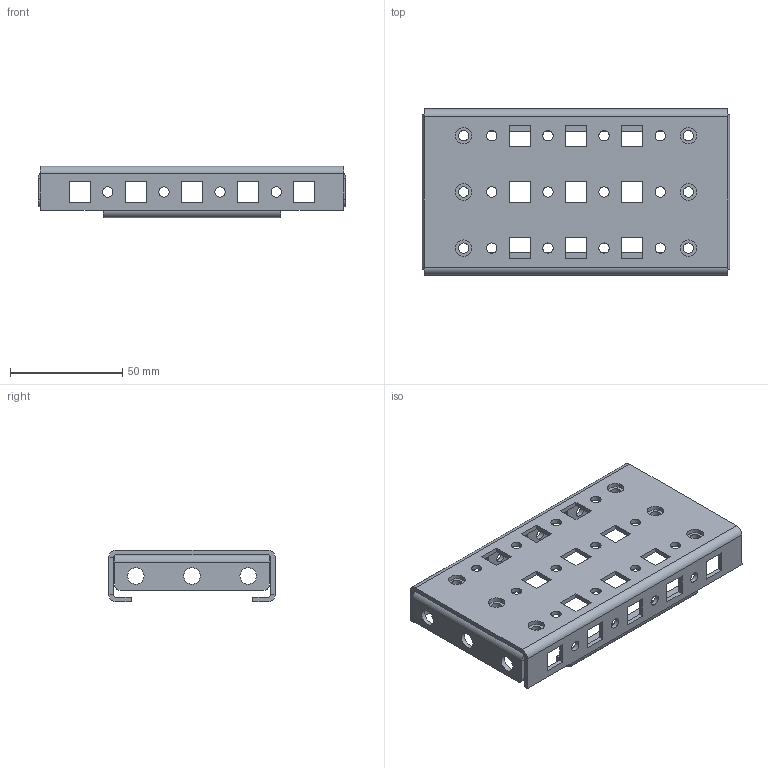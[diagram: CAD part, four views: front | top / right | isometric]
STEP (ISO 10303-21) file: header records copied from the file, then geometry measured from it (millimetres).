
FILE_DESCRIPTION(('STEP AP203'), '1');
FILE_NAME('Ðåéêà ïîïåðå÷íàÿ 250õ74 ìì OptiBox M (2 øò) 419983 ÊÝÀÇ', '', ('UNSPECIFIED'), ('UNSPECIFIED'), 'C3D Converter', 'C3D Toolkit', '');
FILE_SCHEMA(('CONFIG_CONTROL_DESIGN'));
Length unit declared in the file: millimetre
Bounding box: 137 x 74 x 23 mm (x, y, z)
Volume: 37222.3 mm3; surface area: 41970.5 mm2
Topology: 3 solids, 3 shells, 187 faces, 513 edges, 332 vertices
Faces by surface type: plane 125, cylinder 62
Full cylindrical faces by diameter (mm): 4.6 x30, 7.3 x12
Entity records: 5977 total; most frequent: CARTESIAN_POINT 991, DIRECTION 971, ORIENTED_EDGE 942, EDGE_CURVE 471, EDGE_LOOP 351, LINE 347, VECTOR 347, VERTEX_POINT 332
